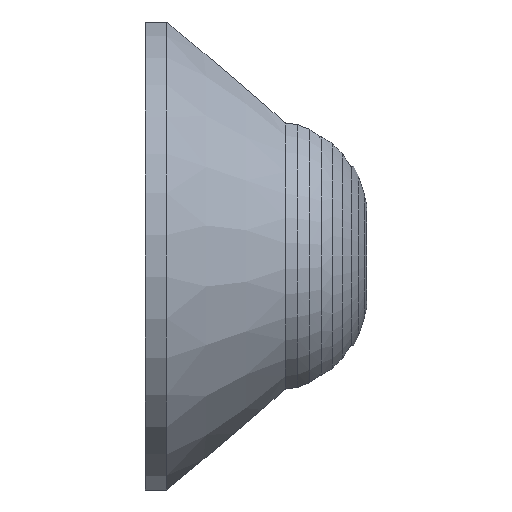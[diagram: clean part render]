
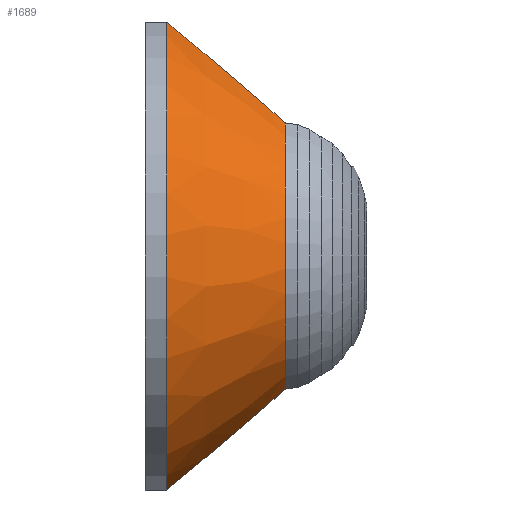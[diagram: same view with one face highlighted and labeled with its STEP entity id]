
A CAD part, front view. The second image highlights one B-rep face of the part: STEP entity #1689.
In plain terms, the highlighted conical face has half-angle 38.766 degrees and reference radius 13.5 mm.
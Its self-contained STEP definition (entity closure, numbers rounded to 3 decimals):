
#128 = PLANE('',#129);
#129 = AXIS2_PLACEMENT_3D('',#130,#131,#132);
#130 = CARTESIAN_POINT('',(463.05,-3.5,-5.));
#131 = DIRECTION('',(-0.,1.,-0.));
#132 = DIRECTION('',(-1.,0.,0.));
#156 = CYLINDRICAL_SURFACE('',#157,13.5);
#157 = AXIS2_PLACEMENT_3D('',#158,#159,#160);
#158 = CARTESIAN_POINT('',(464.35,0.,0.));
#159 = DIRECTION('',(1.,0.,0.));
#160 = DIRECTION('',(-0.,1.,0.));
#183 = PLANE('',#184);
#184 = AXIS2_PLACEMENT_3D('',#185,#186,#187);
#185 = CARTESIAN_POINT('',(463.05,-3.5,5.));
#186 = DIRECTION('',(0.,1.,0.));
#187 = DIRECTION('',(1.,0.,0.));
#1567 = CONICAL_SURFACE('',#1568,8.2,0.12);
#1568 = AXIS2_PLACEMENT_3D('',#1569,#1570,#1571);
#1569 = CARTESIAN_POINT('',(472.15,0.,0.));
#1570 = DIRECTION('',(-1.,-0.,-0.));
#1571 = DIRECTION('',(-0.,1.,0.));
#1609 = VERTEX_POINT('',#1610);
#1610 = CARTESIAN_POINT('',(472.15,-3.5,7.416));
#1635 = EDGE_CURVE('',#1609,#1636,#1638,.T.);
#1636 = VERTEX_POINT('',#1637);
#1637 = CARTESIAN_POINT('',(472.15,-3.5,-7.416));
#1638 = SURFACE_CURVE('',#1639,(#1644,#1651),.PCURVE_S1.);
#1639 = CIRCLE('',#1640,8.2);
#1640 = AXIS2_PLACEMENT_3D('',#1641,#1642,#1643);
#1641 = CARTESIAN_POINT('',(472.15,0.,0.));
#1642 = DIRECTION('',(1.,0.,0.));
#1643 = DIRECTION('',(-0.,1.,0.));
#1644 = PCURVE('',#1567,#1645);
#1645 = DEFINITIONAL_REPRESENTATION('',(#1646),#1650);
#1646 = LINE('',#1647,#1648);
#1647 = CARTESIAN_POINT('',(-0.,-0.));
#1648 = VECTOR('',#1649,1.);
#1649 = DIRECTION('',(-1.,-0.));
#1650 = ( GEOMETRIC_REPRESENTATION_CONTEXT(2) 
PARAMETRIC_REPRESENTATION_CONTEXT() REPRESENTATION_CONTEXT('2D SPACE',''
  ) );
#1651 = PCURVE('',#1652,#1657);
#1652 = CONICAL_SURFACE('',#1653,13.5,0.677);
#1653 = AXIS2_PLACEMENT_3D('',#1654,#1655,#1656);
#1654 = CARTESIAN_POINT('',(465.55,0.,0.));
#1655 = DIRECTION('',(-1.,-0.,-0.));
#1656 = DIRECTION('',(-0.,1.,0.));
#1657 = DEFINITIONAL_REPRESENTATION('',(#1658),#1662);
#1658 = LINE('',#1659,#1660);
#1659 = CARTESIAN_POINT('',(-0.,-6.6));
#1660 = VECTOR('',#1661,1.);
#1661 = DIRECTION('',(-1.,-0.));
#1662 = ( GEOMETRIC_REPRESENTATION_CONTEXT(2) 
PARAMETRIC_REPRESENTATION_CONTEXT() REPRESENTATION_CONTEXT('2D SPACE',''
  ) );
#1689 = ADVANCED_FACE('',(#1690),#1652,.T.);
#1690 = FACE_BOUND('',#1691,.T.);
#1691 = EDGE_LOOP('',(#1692,#1720,#1744,#1770));
#1692 = ORIENTED_EDGE('',*,*,#1693,.T.);
#1693 = EDGE_CURVE('',#1609,#1694,#1696,.T.);
#1694 = VERTEX_POINT('',#1695);
#1695 = CARTESIAN_POINT('',(465.55,-3.5,13.038));
#1696 = SURFACE_CURVE('',#1697,(#1702,#1713),.PCURVE_S1.);
#1697 = HYPERBOLA('',#1698,4.358,3.5);
#1698 = AXIS2_PLACEMENT_3D('',#1699,#1700,#1701);
#1699 = CARTESIAN_POINT('',(482.361,-3.5,0.));
#1700 = DIRECTION('',(0.,1.,0.));
#1701 = DIRECTION('',(-1.,0.,0.));
#1702 = PCURVE('',#1652,#1703);
#1703 = DEFINITIONAL_REPRESENTATION('',(#1704),#1712);
#1704 = B_SPLINE_CURVE_WITH_KNOTS('',6,(#1705,#1706,#1707,#1708,#1709,
    #1710,#1711),.UNSPECIFIED.,.F.,.F.,(7,7),(1.496,
    2.026),.PIECEWISE_BEZIER_KNOTS.);
#1705 = CARTESIAN_POINT('',(-2.012,-6.6));
#1706 = CARTESIAN_POINT('',(-1.974,-5.784));
#1707 = CARTESIAN_POINT('',(-1.94,-4.872));
#1708 = CARTESIAN_POINT('',(-1.909,-3.853));
#1709 = CARTESIAN_POINT('',(-1.881,-2.713));
#1710 = CARTESIAN_POINT('',(-1.856,-1.435));
#1711 = CARTESIAN_POINT('',(-1.833,0.));
#1712 = ( GEOMETRIC_REPRESENTATION_CONTEXT(2) 
PARAMETRIC_REPRESENTATION_CONTEXT() REPRESENTATION_CONTEXT('2D SPACE',''
  ) );
#1713 = PCURVE('',#183,#1714);
#1714 = DEFINITIONAL_REPRESENTATION('',(#1715),#1719);
#1715 = ( BOUNDED_CURVE() B_SPLINE_CURVE(2,(#1716,#1717,#1718),
.UNSPECIFIED.,.F.,.F.) B_SPLINE_CURVE_WITH_KNOTS((3,3),(1.496,
2.026),.PIECEWISE_BEZIER_KNOTS.) CURVE() 
GEOMETRIC_REPRESENTATION_ITEM() RATIONAL_B_SPLINE_CURVE((1.,
1.035,1.)) REPRESENTATION_ITEM('') );
#1716 = CARTESIAN_POINT('',(9.1,-2.416));
#1717 = CARTESIAN_POINT('',(6.707,-4.54));
#1718 = CARTESIAN_POINT('',(2.5,-8.038));
#1719 = ( GEOMETRIC_REPRESENTATION_CONTEXT(2) 
PARAMETRIC_REPRESENTATION_CONTEXT() REPRESENTATION_CONTEXT('2D SPACE',''
  ) );
#1720 = ORIENTED_EDGE('',*,*,#1721,.T.);
#1721 = EDGE_CURVE('',#1694,#1722,#1724,.T.);
#1722 = VERTEX_POINT('',#1723);
#1723 = CARTESIAN_POINT('',(465.55,-3.5,-13.038));
#1724 = SURFACE_CURVE('',#1725,(#1730,#1737),.PCURVE_S1.);
#1725 = CIRCLE('',#1726,13.5);
#1726 = AXIS2_PLACEMENT_3D('',#1727,#1728,#1729);
#1727 = CARTESIAN_POINT('',(465.55,0.,0.));
#1728 = DIRECTION('',(1.,0.,0.));
#1729 = DIRECTION('',(-0.,1.,0.));
#1730 = PCURVE('',#1652,#1731);
#1731 = DEFINITIONAL_REPRESENTATION('',(#1732),#1736);
#1732 = LINE('',#1733,#1734);
#1733 = CARTESIAN_POINT('',(-0.,-0.));
#1734 = VECTOR('',#1735,1.);
#1735 = DIRECTION('',(-1.,-0.));
#1736 = ( GEOMETRIC_REPRESENTATION_CONTEXT(2) 
PARAMETRIC_REPRESENTATION_CONTEXT() REPRESENTATION_CONTEXT('2D SPACE',''
  ) );
#1737 = PCURVE('',#156,#1738);
#1738 = DEFINITIONAL_REPRESENTATION('',(#1739),#1743);
#1739 = LINE('',#1740,#1741);
#1740 = CARTESIAN_POINT('',(0.,1.2));
#1741 = VECTOR('',#1742,1.);
#1742 = DIRECTION('',(1.,0.));
#1743 = ( GEOMETRIC_REPRESENTATION_CONTEXT(2) 
PARAMETRIC_REPRESENTATION_CONTEXT() REPRESENTATION_CONTEXT('2D SPACE',''
  ) );
#1744 = ORIENTED_EDGE('',*,*,#1745,.F.);
#1745 = EDGE_CURVE('',#1636,#1722,#1746,.T.);
#1746 = SURFACE_CURVE('',#1747,(#1752,#1763),.PCURVE_S1.);
#1747 = HYPERBOLA('',#1748,4.358,3.5);
#1748 = AXIS2_PLACEMENT_3D('',#1749,#1750,#1751);
#1749 = CARTESIAN_POINT('',(482.361,-3.5,0.));
#1750 = DIRECTION('',(0.,-1.,0.));
#1751 = DIRECTION('',(-1.,-0.,0.));
#1752 = PCURVE('',#1652,#1753);
#1753 = DEFINITIONAL_REPRESENTATION('',(#1754),#1762);
#1754 = B_SPLINE_CURVE_WITH_KNOTS('',6,(#1755,#1756,#1757,#1758,#1759,
    #1760,#1761),.UNSPECIFIED.,.F.,.F.,(7,7),(1.496,
    2.026),.PIECEWISE_BEZIER_KNOTS.);
#1755 = CARTESIAN_POINT('',(-4.271,-6.6));
#1756 = CARTESIAN_POINT('',(-4.309,-5.784));
#1757 = CARTESIAN_POINT('',(-4.343,-4.872));
#1758 = CARTESIAN_POINT('',(-4.374,-3.853));
#1759 = CARTESIAN_POINT('',(-4.402,-2.713));
#1760 = CARTESIAN_POINT('',(-4.427,-1.435));
#1761 = CARTESIAN_POINT('',(-4.45,0.));
#1762 = ( GEOMETRIC_REPRESENTATION_CONTEXT(2) 
PARAMETRIC_REPRESENTATION_CONTEXT() REPRESENTATION_CONTEXT('2D SPACE',''
  ) );
#1763 = PCURVE('',#128,#1764);
#1764 = DEFINITIONAL_REPRESENTATION('',(#1765),#1769);
#1765 = ( BOUNDED_CURVE() B_SPLINE_CURVE(2,(#1766,#1767,#1768),
.UNSPECIFIED.,.F.,.F.) B_SPLINE_CURVE_WITH_KNOTS((3,3),(1.496,
2.026),.PIECEWISE_BEZIER_KNOTS.) CURVE() 
GEOMETRIC_REPRESENTATION_ITEM() RATIONAL_B_SPLINE_CURVE((1.,
1.035,1.)) REPRESENTATION_ITEM('') );
#1766 = CARTESIAN_POINT('',(-9.1,-2.416));
#1767 = CARTESIAN_POINT('',(-6.707,-4.54));
#1768 = CARTESIAN_POINT('',(-2.5,-8.038));
#1769 = ( GEOMETRIC_REPRESENTATION_CONTEXT(2) 
PARAMETRIC_REPRESENTATION_CONTEXT() REPRESENTATION_CONTEXT('2D SPACE',''
  ) );
#1770 = ORIENTED_EDGE('',*,*,#1635,.F.);
